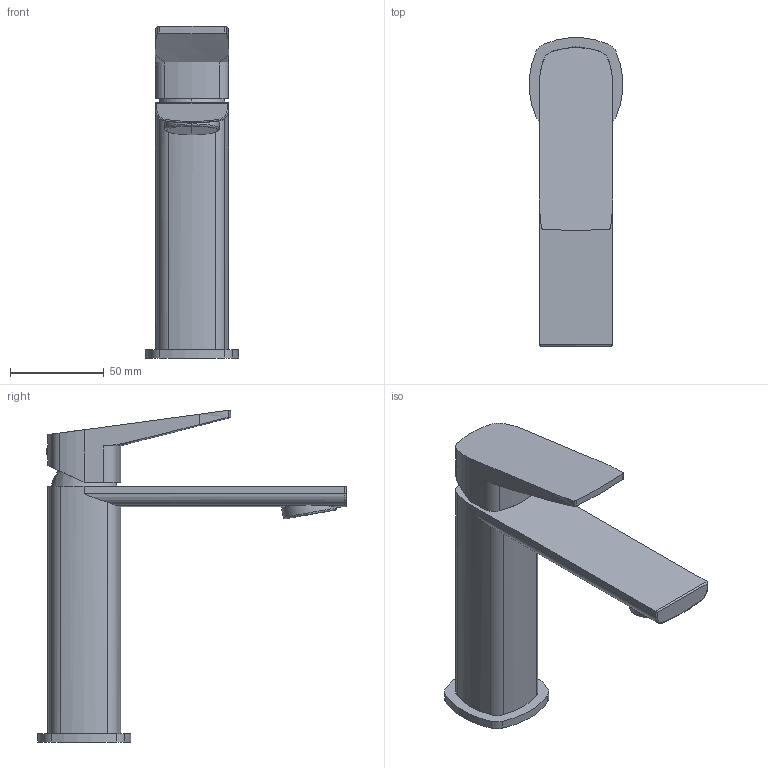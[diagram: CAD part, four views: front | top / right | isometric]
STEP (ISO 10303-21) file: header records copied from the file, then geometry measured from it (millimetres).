
FILE_DESCRIPTION(('FreeCAD Model'),'2;1');
FILE_NAME('Open CASCADE Shape Model','2024-11-19T13:28:34',('Author'),( ''),'Open CASCADE STEP processor 7.6','FreeCAD','Unknown');
FILE_SCHEMA(('AUTOMOTIVE_DESIGN { 1 0 10303 214 1 1 1 1 }'));
Length unit declared in the file: millimetre
Products named in the file (3): TopLevelAssembly; Obrót profilu; Połączona geometria bryłowa
Assembly tree (2 placements, depth 2):
  TopLevelAssembly
    Obrót profilu
    Połączona geometria bryłowa
Bounding box: 49.71 x 164.85 x 177.18 mm (x, y, z)
Volume: 291334.1 mm3; surface area: 44545.8 mm2
Topology: 2 solids, 2 shells, 71 faces, 174 edges, 108 vertices
Faces by surface type: cylinder 42, plane 17, bspline 12
Entity records: 2388 total; most frequent: CARTESIAN_POINT 688, DIRECTION 352, ORIENTED_EDGE 344, EDGE_CURVE 172, AXIS2_PLACEMENT_3D 144, VERTEX_POINT 108, FACE_BOUND 74, EDGE_LOOP 74
